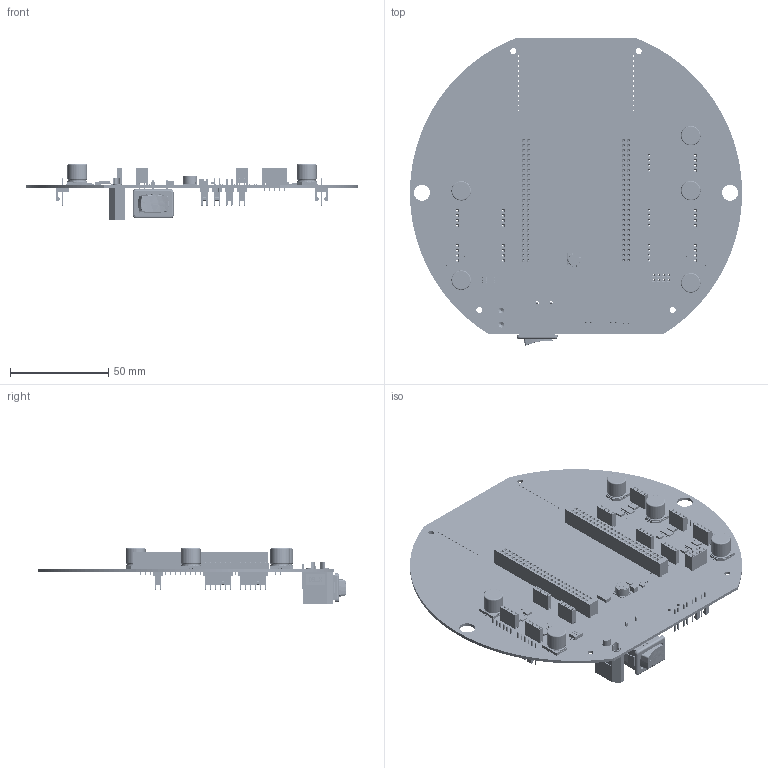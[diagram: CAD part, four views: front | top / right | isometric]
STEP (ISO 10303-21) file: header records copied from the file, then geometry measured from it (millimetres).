
FILE_DESCRIPTION(('Open CASCADE Model'),'2;1');
FILE_NAME('Open CASCADE Shape Model','2017-06-11T17:57:58',('Author'),( 'Open CASCADE'),'Open CASCADE STEP processor 6.8','Open CASCADE 6.8' ,'Unknown');
FILE_SCHEMA(('AUTOMOTIVE_DESIGN { 1 0 10303 214 1 1 1 1 }'));
Products named in the file (1): PCB
Bounding box: 169 x 156.56 x 28.4 mm (x, y, z)
Volume: 46347.2 mm3; surface area: 76891.4 mm2
Topology: 299 solids, 1072 shells, 12479 faces, 35924 edges, 25026 vertices
Faces by surface type: plane 9279, cylinder 2599, bspline 488, torus 74, cone 20, extrusion 10, sphere 9
Full cylindrical faces by diameter (mm): 0.8 x124, 0.9 x82, 1.5 x2, 2 x3, 3 x4, 4.62 x2, 8.083 x2
Entity records: 425268 total; most frequent: CARTESIAN_POINT 87895, ORIENTED_EDGE 67386, DIRECTION 64924, EDGE_CURVE 35843, VECTOR 28600, LINE 28590, VERTEX_POINT 24890, AXIS2_PLACEMENT_3D 18162
